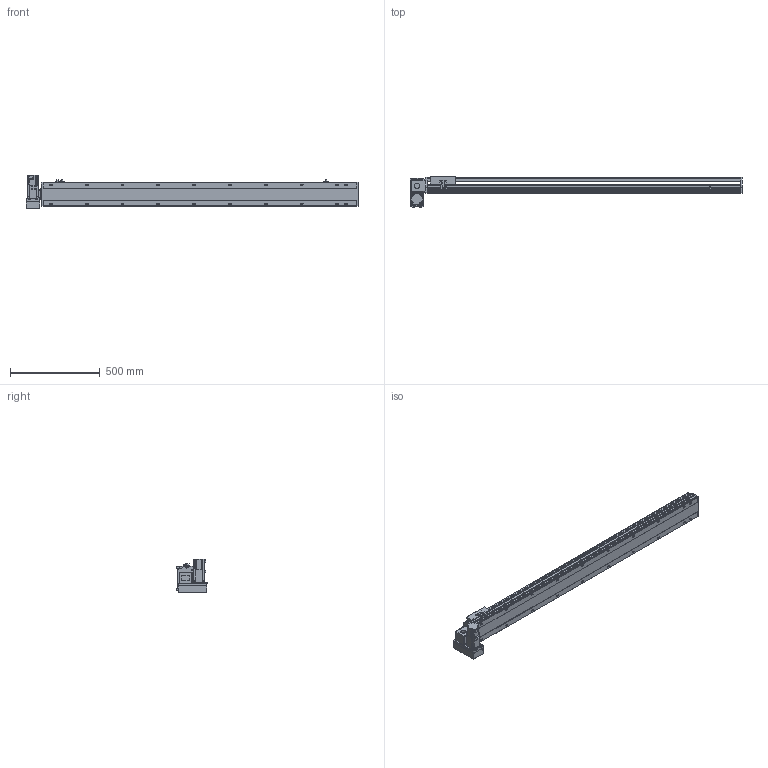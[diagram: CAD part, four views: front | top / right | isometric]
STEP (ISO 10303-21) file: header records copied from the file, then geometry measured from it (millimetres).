
FILE_DESCRIPTION( ( 'STEP AP214' ), '1' );
FILE_NAME( 'x:/temp/worker_6/temp/exporttempdir_5396_101_QPQDO/format_0/PBS140S-P40-S1500-LD-T40-C1-N(0).stp', '2022-06-09T00:25:28', ( 'License CC BY-ND 4.0' ), ( 'CADENAS' ), ' ', 'PARTsolutions', ' ' );
FILE_SCHEMA( ( 'AUTOMOTIVE_DESIGN { 1 0 10303 214 1 1 1 1 }' ) );
Length unit declared in the file: millimetre
Products named in the file (7): PBS140S-P40-S1500-LD-T40-C1-N(0); _PBS140S-S1500()_body; _PBS140ST-LD_motors; _T40-p1; _PBS140S_sliser; _PBS140S_plant; _PBS140S_sensor
Assembly tree (8 placements, depth 2):
  PBS140S-P40-S1500-LD-T40-C1-N(0)
    _PBS140S-S1500()_body
    _PBS140ST-LD_motors
    _T40-p1
    _PBS140S_sliser
    _PBS140S_plant
    _PBS140S_sensor  x3
Bounding box: 1854 x 172.5 x 189.7 mm (x, y, z)
Volume: 9314720.3 mm3; surface area: 1592332.9 mm2
Topology: 8 solids, 8 shells, 1131 faces, 2991 edges, 1957 vertices
Faces by surface type: plane 714, cylinder 361, cone 46, sphere 8, torus 2
Full cylindrical faces by diameter (mm): 3.242 x4, 4 x2, 4.134 x4, 4.4 x8, 4.5 x2, 4.8 x4, 4.917 x28, 5.5 x7, 6 x2, 7 x22, 7.5 x8, 8 x12, 8.5 x4, 10.5 x20, 14 x1, 30 x2, 50 x2
Entity records: 41620 total; most frequent: CARTESIAN_POINT 6742, DIRECTION 5488, ORIENTED_EDGE 5182, EDGE_CURVE 2591, AXIS2_PLACEMENT_3D 1919, VERTEX_POINT 1801, LINE 1650, VECTOR 1650
